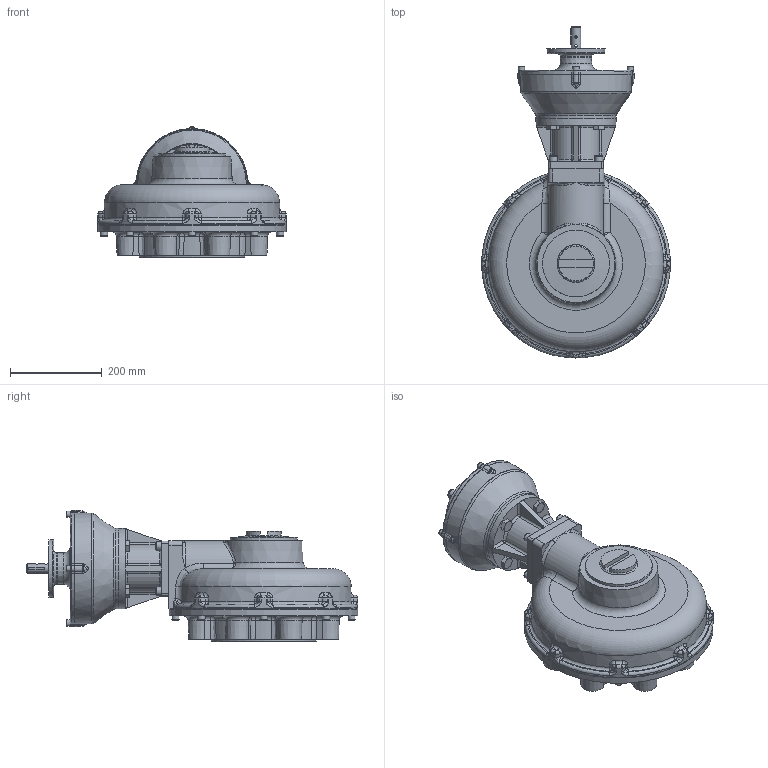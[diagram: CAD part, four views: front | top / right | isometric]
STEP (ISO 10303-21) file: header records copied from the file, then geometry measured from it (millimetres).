
FILE_DESCRIPTION( ( 'Unknown' ), '1' );
FILE_NAME( 'X:/CURRENT/PUB/Hob/HOB-2014/HOB-MPR/HOB-MPR-STP_FILES/PUB-HOB10MPR10-40.5-E-F30.stp', 'Unknown', ( 'Unknown' ), ( 'Unknown' ), 'PSStep 16.0.42', 'Unknown', ' ' );
FILE_SCHEMA( ( 'AUTOMOTIVE_DESIGN { 1 0 10303 214 1 1 1 1 }' ) );
Length unit declared in the file: millimetre
Products named in the file (32): 1; 2; 3; 4; trelleborg_trea00200-n7mm_b5c67wtxxcj74kwnwb2box077_01; 5; 6; 7; 8; 9; 10; 11; 12; 13; 14; 15; 16; 17; 18; 19; 20; 21; 22; 23; 24; 25; 26; 27; 28; 29; 30; 31
Bounding box: 412 x 724.98 x 286.52 mm (x, y, z)
Surface area: 1802380.3 mm2 (no closed solid volume)
Topology: 0 solids, 3347 shells, 3347 faces, 17149 edges, 16672 vertices
Faces by surface type: cylinder 1136, plane 922, cone 606, bspline 290, torus 273, sphere 120
Full cylindrical faces by diameter (mm): 6 x2, 6.647 x8, 8 x4, 8.5 x12, 10 x8, 10.2 x4, 10.5 x12, 12 x4, 12.5 x4, 13.27 x4, 13.835 x8, 16 x12, 16.5 x4, 17.294 x16, 18 x4, 19 x1, 20 x4, 22.098 x1, 23 x1, 25 x1, 29.5 x1, 29.583 x1, 30 x3, 50 x2, 55.115 x1, 66.675 x1, 70 x1, 90 x2, 94 x1, 95.27 x1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
Entity records: 262774 total; most frequent: CARTESIAN_POINT 112039, DIRECTION 26938, VERTEX_POINT 16518, ORIENTED_EDGE 16486, EDGE_CURVE 16486, AXIS2_PLACEMENT_3D 10475, CIRCLE 7346, LINE 5988
